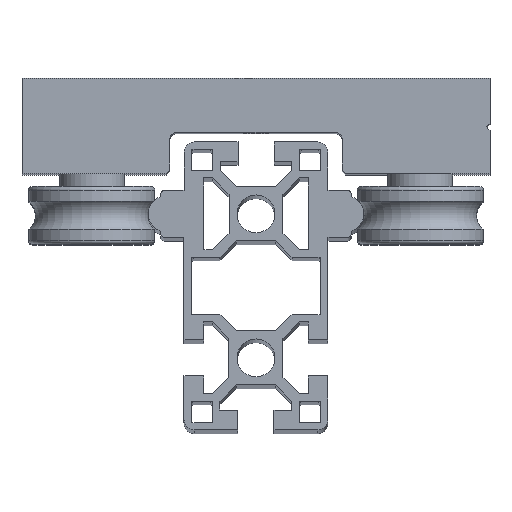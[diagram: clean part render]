
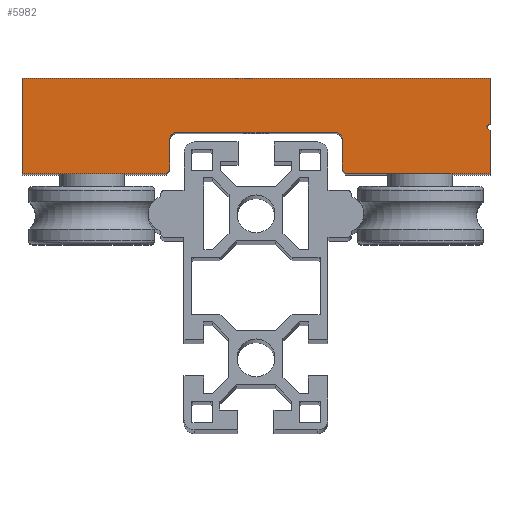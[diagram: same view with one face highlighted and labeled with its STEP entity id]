
A CAD part, top view. The second image highlights one B-rep face of the part: STEP entity #5982.
In plain terms, the highlighted planar face has unit normal (0, 0, 1).
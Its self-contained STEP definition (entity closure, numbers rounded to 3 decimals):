
#70 = VERTEX_POINT ( 'NONE', #3064 ) ;
#261 = DIRECTION ( 'NONE',  ( 0., -1., 0. ) ) ;
#322 = CARTESIAN_POINT ( 'NONE',  ( -24., 0., 220. ) ) ;
#332 = DIRECTION ( 'NONE',  ( 1., 0., 0. ) ) ;
#683 = EDGE_CURVE ( 'NONE', #2475, #13029, #15482, .T. ) ;
#722 = VERTEX_POINT ( 'NONE', #8257 ) ;
#738 = CARTESIAN_POINT ( 'NONE',  ( -65., 0., 220. ) ) ;
#814 = LINE ( 'NONE', #3235, #6918 ) ;
#994 = EDGE_CURVE ( 'NONE', #722, #6833, #1925, .T. ) ;
#1200 = ORIENTED_EDGE ( 'NONE', *, *, #7992, .T. ) ;
#1316 = CARTESIAN_POINT ( 'NONE',  ( -22., 11.5, 220. ) ) ;
#1332 = DIRECTION ( 'NONE',  ( 1., 0., 0. ) ) ;
#1574 = LINE ( 'NONE', #6641, #4946 ) ;
#1861 = CARTESIAN_POINT ( 'NONE',  ( 65., 0., 220. ) ) ;
#1925 = LINE ( 'NONE', #13414, #16349 ) ;
#1962 = DIRECTION ( 'NONE',  ( -1., 0., 0. ) ) ;
#2287 = VERTEX_POINT ( 'NONE', #15355 ) ;
#2288 = ORIENTED_EDGE ( 'NONE', *, *, #3469, .T. ) ;
#2475 = VERTEX_POINT ( 'NONE', #4754 ) ;
#3064 = CARTESIAN_POINT ( 'NONE',  ( -24., 9.5, 220. ) ) ;
#3233 = VECTOR ( 'NONE', #332, 1000. ) ;
#3235 = CARTESIAN_POINT ( 'NONE',  ( 64., 13., 220. ) ) ;
#3469 = EDGE_CURVE ( 'NONE', #4057, #3903, #9169, .T. ) ;
#3492 = EDGE_CURVE ( 'NONE', #13668, #722, #4287, .T. ) ;
#3569 = EDGE_CURVE ( 'NONE', #70, #6765, #6411, .T. ) ;
#3626 = PLANE ( 'NONE',  #5495 ) ;
#3842 = CARTESIAN_POINT ( 'NONE',  ( 64., 13., 220. ) ) ;
#3864 = ORIENTED_EDGE ( 'NONE', *, *, #13697, .T. ) ;
#3903 = VERTEX_POINT ( 'NONE', #10905 ) ;
#4057 = VERTEX_POINT ( 'NONE', #5204 ) ;
#4085 = DIRECTION ( 'NONE',  ( 1., 0., 0. ) ) ;
#4287 = CIRCLE ( 'NONE', #9878, 2. ) ;
#4599 = EDGE_CURVE ( 'NONE', #7690, #2287, #814, .T. ) ;
#4631 = ORIENTED_EDGE ( 'NONE', *, *, #10220, .T. ) ;
#4725 = LINE ( 'NONE', #5960, #10065 ) ;
#4754 = CARTESIAN_POINT ( 'NONE',  ( 25., 0., 220. ) ) ;
#4946 = VECTOR ( 'NONE', #1332, 1000. ) ;
#4951 = CARTESIAN_POINT ( 'NONE',  ( -65., 0., 220. ) ) ;
#5141 = CARTESIAN_POINT ( 'NONE',  ( -24., 1., 220. ) ) ;
#5204 = CARTESIAN_POINT ( 'NONE',  ( 65., 26.5, 220. ) ) ;
#5275 = CARTESIAN_POINT ( 'NONE',  ( -24., 1., 220. ) ) ;
#5407 = DIRECTION ( 'NONE',  ( 0., 0., -1. ) ) ;
#5495 = AXIS2_PLACEMENT_3D ( 'NONE', #10837, #14610, #9185 ) ;
#5532 = VECTOR ( 'NONE', #6928, 1000. ) ;
#5960 = CARTESIAN_POINT ( 'NONE',  ( 25., 0., 220. ) ) ;
#5982 = ADVANCED_FACE ( 'NONE', ( #6437 ), #3626, .F. ) ;
#6358 = CARTESIAN_POINT ( 'NONE',  ( 24., 1., 220. ) ) ;
#6411 = CIRCLE ( 'NONE', #12010, 2. ) ;
#6437 = FACE_OUTER_BOUND ( 'NONE', #15839, .T. ) ;
#6508 = EDGE_CURVE ( 'NONE', #3903, #11332, #7905, .T. ) ;
#6641 = CARTESIAN_POINT ( 'NONE',  ( 24., 11.5, 220. ) ) ;
#6712 = CARTESIAN_POINT ( 'NONE',  ( 65., 12., 220. ) ) ;
#6765 = VERTEX_POINT ( 'NONE', #1316 ) ;
#6780 = VERTEX_POINT ( 'NONE', #5275 ) ;
#6833 = VERTEX_POINT ( 'NONE', #6358 ) ;
#6918 = VECTOR ( 'NONE', #10953, 1000. ) ;
#6928 = DIRECTION ( 'NONE',  ( 0., 1., 0. ) ) ;
#7060 = DIRECTION ( 'NONE',  ( 0., -1., 0. ) ) ;
#7101 = ORIENTED_EDGE ( 'NONE', *, *, #7934, .T. ) ;
#7418 = VECTOR ( 'NONE', #7947, 1000. ) ;
#7442 = VECTOR ( 'NONE', #261, 1000. ) ;
#7690 = VERTEX_POINT ( 'NONE', #3842 ) ;
#7771 = VECTOR ( 'NONE', #1962, 1000. ) ;
#7896 = ORIENTED_EDGE ( 'NONE', *, *, #11026, .T. ) ;
#7905 = LINE ( 'NONE', #4951, #7442 ) ;
#7934 = EDGE_CURVE ( 'NONE', #13029, #14122, #10585, .T. ) ;
#7947 = DIRECTION ( 'NONE',  ( 0., 1., 0. ) ) ;
#7992 = EDGE_CURVE ( 'NONE', #6833, #2475, #4725, .T. ) ;
#8081 = ORIENTED_EDGE ( 'NONE', *, *, #3492, .T. ) ;
#8257 = CARTESIAN_POINT ( 'NONE',  ( 24., 9.5, 220. ) ) ;
#8275 = CARTESIAN_POINT ( 'NONE',  ( -22., 9.5, 220. ) ) ;
#9097 = ORIENTED_EDGE ( 'NONE', *, *, #683, .T. ) ;
#9158 = EDGE_CURVE ( 'NONE', #9875, #6780, #15216, .T. ) ;
#9169 = LINE ( 'NONE', #10756, #7771 ) ;
#9185 = DIRECTION ( 'NONE',  ( -1., 0., 0. ) ) ;
#9224 = CARTESIAN_POINT ( 'NONE',  ( -65., 0., 220. ) ) ;
#9505 = CARTESIAN_POINT ( 'NONE',  ( 65., 12., 220. ) ) ;
#9658 = VECTOR ( 'NONE', #10235, 1000. ) ;
#9838 = DIRECTION ( 'NONE',  ( 0., 0., -1. ) ) ;
#9875 = VERTEX_POINT ( 'NONE', #13936 ) ;
#9878 = AXIS2_PLACEMENT_3D ( 'NONE', #14205, #5407, #14447 ) ;
#9883 = CARTESIAN_POINT ( 'NONE',  ( 22., 11.5, 220. ) ) ;
#9914 = ORIENTED_EDGE ( 'NONE', *, *, #6508, .T. ) ;
#9965 = VECTOR ( 'NONE', #11519, 1000. ) ;
#10065 = VECTOR ( 'NONE', #13528, 1000. ) ;
#10220 = EDGE_CURVE ( 'NONE', #11332, #9875, #11696, .T. ) ;
#10235 = DIRECTION ( 'NONE',  ( 0.707, 0.707, 0. ) ) ;
#10585 = LINE ( 'NONE', #1861, #5532 ) ;
#10675 = CARTESIAN_POINT ( 'NONE',  ( 65., 0., 220. ) ) ;
#10756 = CARTESIAN_POINT ( 'NONE',  ( -65., 26.5, 220. ) ) ;
#10837 = CARTESIAN_POINT ( 'NONE',  ( 0., 0., 220. ) ) ;
#10905 = CARTESIAN_POINT ( 'NONE',  ( -65., 26.5, 220. ) ) ;
#10953 = DIRECTION ( 'NONE',  ( 0.707, 0.707, 0. ) ) ;
#11026 = EDGE_CURVE ( 'NONE', #2287, #4057, #13205, .T. ) ;
#11195 = ORIENTED_EDGE ( 'NONE', *, *, #9158, .T. ) ;
#11302 = EDGE_CURVE ( 'NONE', #6765, #13668, #1574, .T. ) ;
#11332 = VERTEX_POINT ( 'NONE', #738 ) ;
#11450 = ORIENTED_EDGE ( 'NONE', *, *, #994, .T. ) ;
#11519 = DIRECTION ( 'NONE',  ( 0., 1., 0. ) ) ;
#11680 = LINE ( 'NONE', #322, #9965 ) ;
#11696 = LINE ( 'NONE', #13168, #3233 ) ;
#11715 = VECTOR ( 'NONE', #12998, 1000. ) ;
#11728 = CARTESIAN_POINT ( 'NONE',  ( 65., 0., 220. ) ) ;
#12010 = AXIS2_PLACEMENT_3D ( 'NONE', #8275, #9838, #12138 ) ;
#12138 = DIRECTION ( 'NONE',  ( -1., 0., 0. ) ) ;
#12998 = DIRECTION ( 'NONE',  ( -0.707, 0.707, 0. ) ) ;
#13029 = VERTEX_POINT ( 'NONE', #11728 ) ;
#13168 = CARTESIAN_POINT ( 'NONE',  ( -65., 0., 220. ) ) ;
#13205 = LINE ( 'NONE', #10675, #7418 ) ;
#13382 = ORIENTED_EDGE ( 'NONE', *, *, #15981, .T. ) ;
#13414 = CARTESIAN_POINT ( 'NONE',  ( 24., 0., 220. ) ) ;
#13528 = DIRECTION ( 'NONE',  ( 0.707, -0.707, 0. ) ) ;
#13668 = VERTEX_POINT ( 'NONE', #9883 ) ;
#13697 = EDGE_CURVE ( 'NONE', #14122, #7690, #13985, .T. ) ;
#13936 = CARTESIAN_POINT ( 'NONE',  ( -25., 0., 220. ) ) ;
#13985 = LINE ( 'NONE', #6712, #11715 ) ;
#14122 = VERTEX_POINT ( 'NONE', #9505 ) ;
#14205 = CARTESIAN_POINT ( 'NONE',  ( 22., 9.5, 220. ) ) ;
#14447 = DIRECTION ( 'NONE',  ( -1., 0., 0. ) ) ;
#14478 = VECTOR ( 'NONE', #4085, 1000. ) ;
#14610 = DIRECTION ( 'NONE',  ( 0., 0., -1. ) ) ;
#14923 = ORIENTED_EDGE ( 'NONE', *, *, #3569, .T. ) ;
#15216 = LINE ( 'NONE', #5141, #9658 ) ;
#15355 = CARTESIAN_POINT ( 'NONE',  ( 65., 14., 220. ) ) ;
#15482 = LINE ( 'NONE', #9224, #14478 ) ;
#15839 = EDGE_LOOP ( 'NONE', ( #11450, #1200, #9097, #7101, #3864, #15955, #7896, #2288, #9914, #4631, #11195, #13382, #14923, #16280, #8081 ) ) ;
#15955 = ORIENTED_EDGE ( 'NONE', *, *, #4599, .T. ) ;
#15981 = EDGE_CURVE ( 'NONE', #6780, #70, #11680, .T. ) ;
#16280 = ORIENTED_EDGE ( 'NONE', *, *, #11302, .T. ) ;
#16349 = VECTOR ( 'NONE', #7060, 1000. ) ;
